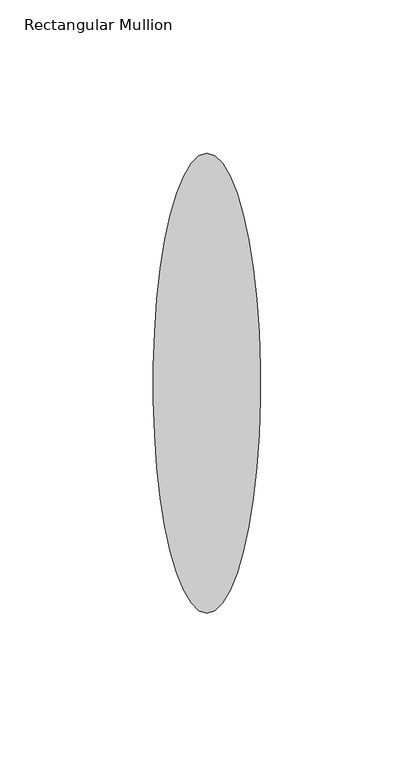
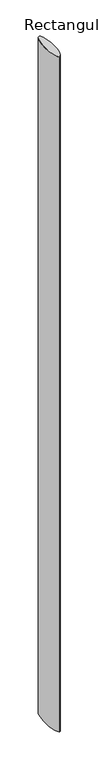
"""IFC4 building model written with IfcOpenShell, lengths in millimetres: member geometry, Rectangular Mullion : RSen_21_CWM_blade - 150 ellips - 0°_gen_duco projects."""

from ifc_helpers import new_model, si_unit, point, frame, origin, place, context, project, spatial, ellipse_curve, trimmed, source, transform, mapped, element, save
from ifc_brep_helpers import plane_surface, extruded_surface, advanced_brep


def rectangular_mullion_822d50ae(model_context):
    return source(origin(), model_context, "Body", "AdvancedBrep", [
        advanced_brep(
        [(0.0, 13.0, 0.0), (0.0, 163.0, 0.0), (0.0, 13.0, -3000.0), (0.0, 163.0, -3000.0)],
        [
            (0, 1, ellipse_curve(frame((0.0, 88.0, 0.0), z_axis=(0.0, 0.0, 1.0), x_axis=(0.0, 1.0, 0.0)), 75.0, 17.5)),
            (1, 0, ellipse_curve(frame((0.0, 88.0, 0.0), z_axis=(0.0, 0.0, 1.0), x_axis=(0.0, 1.0, 0.0)), 75.0, 17.5)),
            (2, 3, ellipse_curve(frame((0.0, 88.0, -3000.0), z_axis=(0.0, 0.0, -1.0), x_axis=(0.0, 1.0, 0.0)), 75.0, 17.5)),
            (3, 2, ellipse_curve(frame((0.0, 88.0, -3000.0), z_axis=(0.0, 0.0, -1.0), x_axis=(0.0, 1.0, 0.0)), 75.0, 17.5)),
            (0, 2),
            (3, 1),
        ],
        [
            plane_surface(frame((0.0, -163.0, 0.0), z_axis=(0.0, 0.0, 1.0), x_axis=(-1.0, 0.0, 0.0))),
            plane_surface(frame((0.0, -163.0, -3000.0), z_axis=(0.0, 0.0, -1.0), x_axis=(-1.0, 0.0, 0.0))),
            extruded_surface(trimmed(ellipse_curve(frame((0.0, 88.0, -3000.0), z_axis=(0.0, 0.0, 1.0), x_axis=(0.0, 1.0, 0.0)), 75.0, 17.5), [point((0.0, 13.0, -3000.0))], [point((0.0, 163.0, -3000.0))], True, "CARTESIAN"), (0.0, 0.0, 3000.0), 3000.0),
            extruded_surface(trimmed(ellipse_curve(frame((0.0, 88.0, -3000.0), z_axis=(0.0, 0.0, 1.0), x_axis=(0.0, 1.0, 0.0)), 75.0, 17.5), [point((0.0, 163.0, -3000.0))], [point((0.0, 13.0, -3000.0))], True, "CARTESIAN"), (0.0, 0.0, 3000.0), 3000.0),
        ],
        [
            (0, [[1, 2]]),
            (1, [[3, 4]]),
            (2, [[-1, 5, -4, 6]]),
            (3, [[-2, -6, -3, -5]]),
        ],
    ),
    ])


if __name__ == "__main__":
    model = new_model("IFC4")
    model_context = context("Model", 3, world=origin())
    ifc_project = project(units=[si_unit("LENGTHUNIT", "METRE", prefix="MILLI")], contexts=[model_context])
    site = spatial("IfcSite", under=ifc_project)
    building = spatial("IfcBuilding", under=site)
    placement = place(None, origin())
    rectangular_mullion_shape = rectangular_mullion_822d50ae(model_context)
    element("IfcMember", 1, ObjectType="Rectangular Mullion : RSen_21_CWM_blade - 150 ellips - 0°_gen_duco projects", at=placement, inside=building, context=model_context, shape_type="MappedRepresentation", body=[
        mapped(rectangular_mullion_shape, transform((0.0, 0.0, 0.0), x_axis=(1.0, 0.0, 0.0), y_axis=(0.0, 1.0, 0.0), z_axis=(0.0, 0.0, 1.0))),
    ])
    save(model, "model.ifc")
